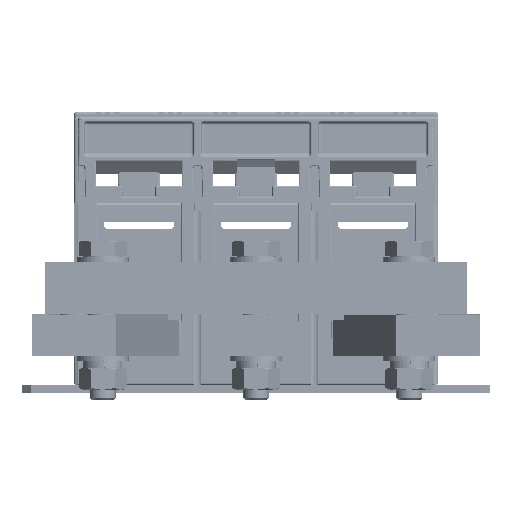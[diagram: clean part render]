
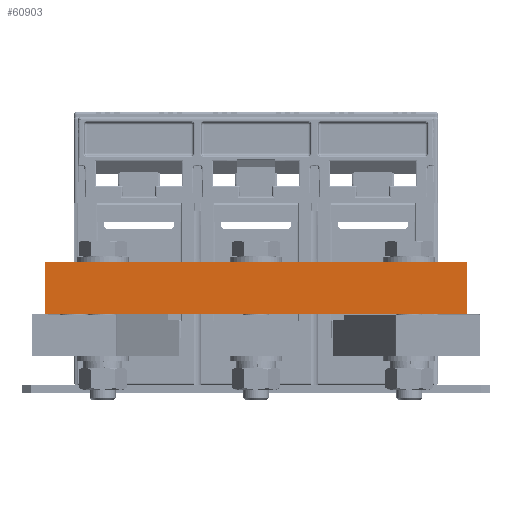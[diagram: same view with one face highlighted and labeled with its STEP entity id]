
A CAD part, front view. The second image highlights one B-rep face of the part: STEP entity #60903.
In plain terms, the highlighted planar face has unit normal (0, -1, 0).
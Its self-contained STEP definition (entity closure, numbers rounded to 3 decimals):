
#60277 = EDGE_CURVE ( 'NONE', #60490, #60283, #208031, .T. ) ;
#60283 = VERTEX_POINT ( 'NONE', #208021 ) ;
#60490 = VERTEX_POINT ( 'NONE', #208477 ) ;
#60500 = VERTEX_POINT ( 'NONE', #208581 ) ;
#60638 = EDGE_CURVE ( 'NONE', #60490, #60708, #208800, .T. ) ;
#60708 = VERTEX_POINT ( 'NONE', #208877 ) ;
#60746 = EDGE_CURVE ( 'NONE', #60708, #60500, #208948, .T. ) ;
#60903 = ADVANCED_FACE ( 'NONE', ( #209230 ), #209307, .F. ) ;
#60907 = EDGE_LOOP ( 'NONE', ( #60916, #60932, #60949, #60963 ) ) ;
#60916 = ORIENTED_EDGE ( 'NONE', *, *, #60746, .T. ) ;
#60932 = ORIENTED_EDGE ( 'NONE', *, *, #60939, .F. ) ;
#60939 = EDGE_CURVE ( 'NONE', #60283, #60500, #209388, .T. ) ;
#60949 = ORIENTED_EDGE ( 'NONE', *, *, #60277, .F. ) ;
#60963 = ORIENTED_EDGE ( 'NONE', *, *, #60638, .T. ) ;
#208021 = CARTESIAN_POINT ( 'NONE',  ( 85.274, -221.669, 0.91 ) ) ;
#208024 = DIRECTION ( 'NONE',  ( 1., 0., 0. ) ) ;
#208026 = VECTOR ( 'NONE', #208024, 1000. ) ;
#208029 = CARTESIAN_POINT ( 'NONE',  ( 85.274, -221.669, 0.91 ) ) ;
#208031 = LINE ( 'NONE', #208029, #208026 ) ;
#208477 = CARTESIAN_POINT ( 'NONE',  ( -76.726, -221.669, 0.91 ) ) ;
#208581 = CARTESIAN_POINT ( 'NONE',  ( 85.274, -221.669, -19.09 ) ) ;
#208796 = DIRECTION ( 'NONE',  ( 0., 0., -1. ) ) ;
#208798 = VECTOR ( 'NONE', #208796, 1000. ) ;
#208799 = CARTESIAN_POINT ( 'NONE',  ( -76.726, -221.669, 0.91 ) ) ;
#208800 = LINE ( 'NONE', #208799, #208798 ) ;
#208877 = CARTESIAN_POINT ( 'NONE',  ( -76.726, -221.669, -19.09 ) ) ;
#208944 = DIRECTION ( 'NONE',  ( 1., 0., 0. ) ) ;
#208945 = VECTOR ( 'NONE', #208944, 1000. ) ;
#208946 = CARTESIAN_POINT ( 'NONE',  ( 85.274, -221.669, -19.09 ) ) ;
#208948 = LINE ( 'NONE', #208946, #208945 ) ;
#209230 = FACE_OUTER_BOUND ( 'NONE', #60907, .T. ) ;
#209301 = DIRECTION ( 'NONE',  ( -1., 0., 0. ) ) ;
#209303 = DIRECTION ( 'NONE',  ( 0., 1., 0. ) ) ;
#209304 = CARTESIAN_POINT ( 'NONE',  ( 85.274, -221.669, 0.91 ) ) ;
#209305 = AXIS2_PLACEMENT_3D ( 'NONE', #209304, #209303, #209301 ) ;
#209307 = PLANE ( 'NONE',  #209305 ) ;
#209383 = DIRECTION ( 'NONE',  ( 0., 0., -1. ) ) ;
#209384 = VECTOR ( 'NONE', #209383, 1000. ) ;
#209386 = CARTESIAN_POINT ( 'NONE',  ( 85.274, -221.669, 0.91 ) ) ;
#209388 = LINE ( 'NONE', #209386, #209384 ) ;
